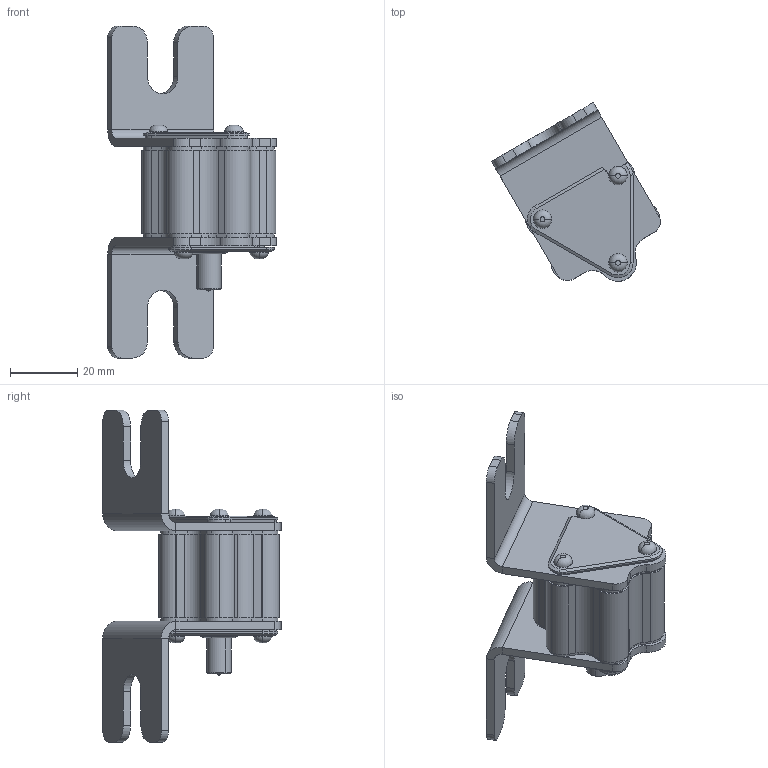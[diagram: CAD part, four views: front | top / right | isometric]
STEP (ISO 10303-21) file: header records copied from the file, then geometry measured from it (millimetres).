
FILE_DESCRIPTION (( 'STEP AP214' ), '1' );
FILE_NAME ('砎槼隰譇膻蠈錪 珫57-34272-XXXA-XXXX-忡曖.STEP', '2023-05-11T11:28:57', ( '' ), ( '' ), 'SwSTEP 2.0', 'SolidWorks 2018', '' );
FILE_SCHEMA (( 'AUTOMOTIVE_DESIGN' ));
Length unit declared in the file: millimetre
Products named in the file (1): 砎槼隰譇膻蠈錪 珫57-34272-XXXA-XXXX-忡曖
Bounding box: 50.28 x 53.22 x 99 mm (x, y, z)
Volume: 39985.5 mm3; surface area: 18882.6 mm2
Topology: 1 solids, 14 shells, 750 faces, 1882 edges, 1167 vertices
Faces by surface type: cylinder 333, plane 317, cone 52, torus 30, bspline 18
Entity records: 40291 total; most frequent: CARTESIAN_POINT 14535, ORIENTED_EDGE 3740, DIRECTION 3636, EDGE_CURVE 1870, AXIS2_PLACEMENT_3D 1348, VERTEX_POINT 1167, LINE 940, VECTOR 940
